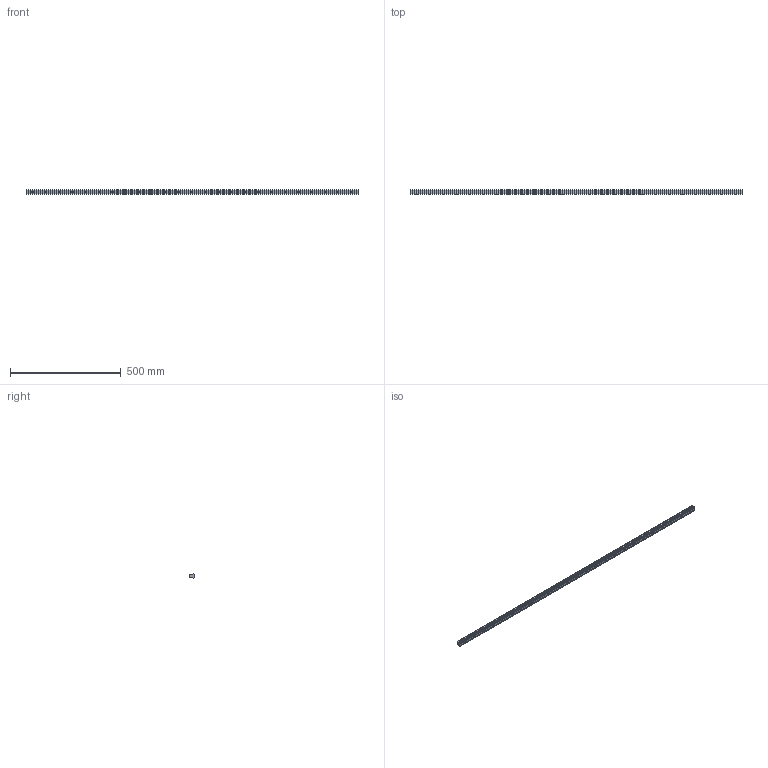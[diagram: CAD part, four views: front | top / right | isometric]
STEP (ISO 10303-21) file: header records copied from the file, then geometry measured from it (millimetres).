
FILE_DESCRIPTION (( 'STEP AP203' ), '1' );
FILE_NAME ('L1018.20R-1500.step', '2023-08-06T09:08:48', ( '' ), ( '' ), 'SwSTEP 2.0', 'SolidWorks 2019', '' );
FILE_SCHEMA (( 'CONFIG_CONTROL_DESIGN' ));
Length unit declared in the file: millimetre
Products named in the file (1): L1018.20R-1500
Bounding box: 1500 x 19.3 x 20 mm (x, y, z)
Volume: 475692.4 mm3; surface area: 127235.3 mm2
Topology: 1 solids, 1 shells, 254 faces, 581 edges, 329 vertices
Faces by surface type: cylinder 103, cone 100, plane 51
Entity records: 6848 total; most frequent: DIRECTION 1297, CARTESIAN_POINT 1115, ORIENTED_EDGE 1062, EDGE_CURVE 531, AXIS2_PLACEMENT_3D 511, VERTEX_POINT 329, EDGE_LOOP 304, VECTOR 275
